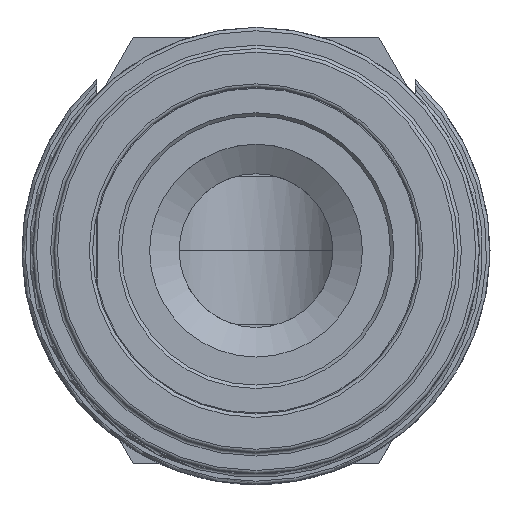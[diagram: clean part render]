
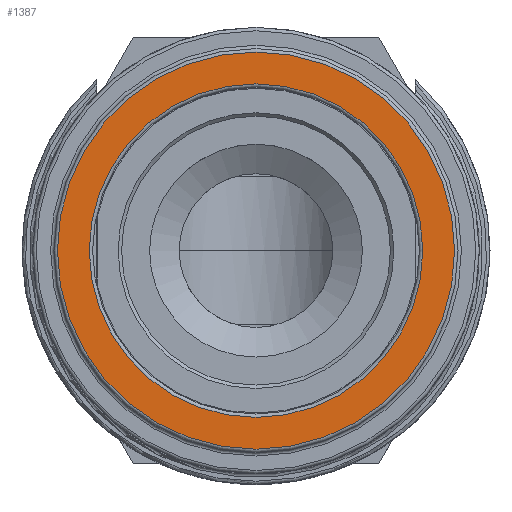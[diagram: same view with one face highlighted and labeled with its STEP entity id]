
A CAD part, front view. The second image highlights one B-rep face of the part: STEP entity #1387.
In plain terms, the highlighted planar face has unit normal (0, -1, 0).
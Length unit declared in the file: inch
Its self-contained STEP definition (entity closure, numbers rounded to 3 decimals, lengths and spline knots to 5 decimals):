
#52=FACE_BOUND('',#244,.T.);
#167=FACE_OUTER_BOUND('',#243,.T.);
#243=EDGE_LOOP('',(#1236,#1237));
#244=EDGE_LOOP('',(#1238,#1239));
#323=CIRCLE('',#1552,0.49);
#324=CIRCLE('',#1553,0.49);
#326=CIRCLE('',#1556,0.5835);
#327=CIRCLE('',#1557,0.5835);
#647=VERTEX_POINT('',#2569);
#648=VERTEX_POINT('',#2571);
#649=VERTEX_POINT('',#2576);
#650=VERTEX_POINT('',#2577);
#849=EDGE_CURVE('',#647,#648,#323,.T.);
#850=EDGE_CURVE('',#648,#647,#324,.T.);
#852=EDGE_CURVE('',#649,#650,#326,.T.);
#853=EDGE_CURVE('',#650,#649,#327,.T.);
#1236=ORIENTED_EDGE('',*,*,#852,.F.);
#1237=ORIENTED_EDGE('',*,*,#853,.F.);
#1238=ORIENTED_EDGE('',*,*,#850,.F.);
#1239=ORIENTED_EDGE('',*,*,#849,.F.);
#1323=PLANE('',#1555);
#1387=ADVANCED_FACE('',(#167,#52),#1323,.T.);
#1552=AXIS2_PLACEMENT_3D('',#2572,#1929,#1930);
#1553=AXIS2_PLACEMENT_3D('',#2573,#1931,#1932);
#1555=AXIS2_PLACEMENT_3D('',#2575,#1935,#1936);
#1556=AXIS2_PLACEMENT_3D('',#2578,#1937,#1938);
#1557=AXIS2_PLACEMENT_3D('',#2579,#1939,#1940);
#1929=DIRECTION('center_axis',(0.,-1.,0.));
#1930=DIRECTION('ref_axis',(0.,0.,1.));
#1931=DIRECTION('center_axis',(0.,-1.,0.));
#1932=DIRECTION('ref_axis',(0.,0.,1.));
#1935=DIRECTION('center_axis',(0.,-1.,0.));
#1936=DIRECTION('ref_axis',(0.,0.,-1.));
#1937=DIRECTION('center_axis',(0.,1.,0.));
#1938=DIRECTION('ref_axis',(0.,0.,1.));
#1939=DIRECTION('center_axis',(0.,1.,0.));
#1940=DIRECTION('ref_axis',(0.,0.,1.));
#2569=CARTESIAN_POINT('',(0.,0.,0.49));
#2571=CARTESIAN_POINT('',(0.,0.,-0.49));
#2572=CARTESIAN_POINT('Origin',(0.,0.,0.));
#2573=CARTESIAN_POINT('Origin',(0.,0.,0.));
#2575=CARTESIAN_POINT('Origin',(0.,0.,-0.48));
#2576=CARTESIAN_POINT('',(0.,0.,-0.5835));
#2577=CARTESIAN_POINT('',(0.,0.,0.5835));
#2578=CARTESIAN_POINT('Origin',(0.,0.,0.));
#2579=CARTESIAN_POINT('Origin',(0.,0.,0.));
